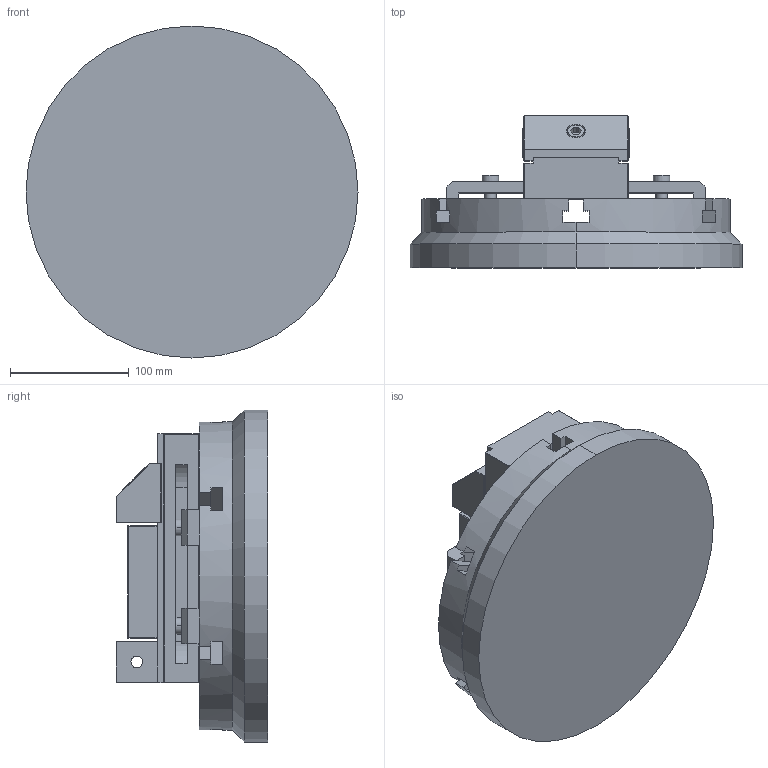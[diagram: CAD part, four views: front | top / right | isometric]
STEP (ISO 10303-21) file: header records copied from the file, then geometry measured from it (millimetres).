
FILE_DESCRIPTION (( 'STEP AP203' ), '1' );
FILE_NAME ('Plateau monté.STEP', '2009-12-02T11:11:30', ( 'Famille Couzi' ), ( '' ), 'SwSTEP 2.0', 'SolidWorks 2005143', '' );
FILE_SCHEMA (( 'CONFIG_CONTROL_DESIGN' ));
Length unit declared in the file: millimetre
Products named in the file (1): Plateau monté
Bounding box: 280 x 128 x 280 mm (x, y, z)
Surface area: 329591.9 mm2 (no closed solid volume)
Topology: 0 solids, 13 shells, 234 faces, 666 edges, 444 vertices
Faces by surface type: plane 178, cylinder 46, torus 8, cone 2
Entity records: 7520 total; most frequent: CARTESIAN_POINT 1345, DIRECTION 1297, ORIENTED_EDGE 1126, EDGE_CURVE 666, LINE 505, VECTOR 505, VERTEX_POINT 444, AXIS2_PLACEMENT_3D 396
